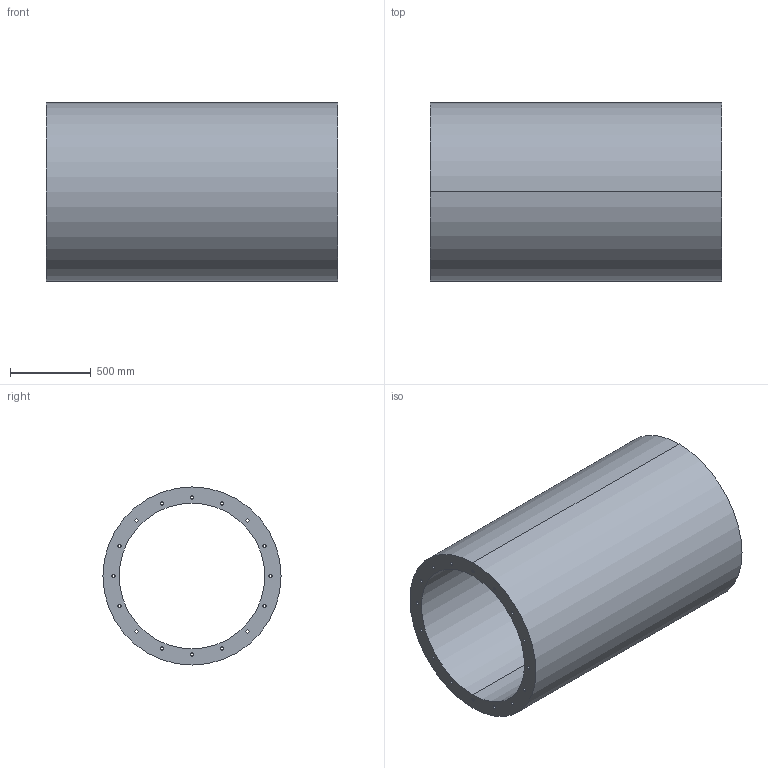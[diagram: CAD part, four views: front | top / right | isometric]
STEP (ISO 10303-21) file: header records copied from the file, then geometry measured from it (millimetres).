
FILE_DESCRIPTION(('STEP AP214'),'1');
FILE_NAME('accessory_5211812500.stp','2017-10-09T11:36:37',('TraceParts'),('TraceParts S.A.'),'Spatial InterOp 3D',' ',' ');
FILE_SCHEMA(('automotive_design'));
Length unit declared in the file: millimetre
Products named in the file (1): accessory_5211812500
Bounding box: 1800 x 1100 x 1100 mm (x, y, z)
Volume: 556438890.8 mm3; surface area: 13737556.4 mm2
Topology: 1 solids, 1 shells, 38 faces, 108 edges, 72 vertices
Faces by surface type: cylinder 36, plane 2
Entity records: 1672 total; most frequent: DIRECTION 258, CARTESIAN_POINT 219, ORIENTED_EDGE 216, AXIS2_PLACEMENT_3D 111, EDGE_CURVE 108, EDGE_LOOP 72, VERTEX_POINT 72, CIRCLE 72
